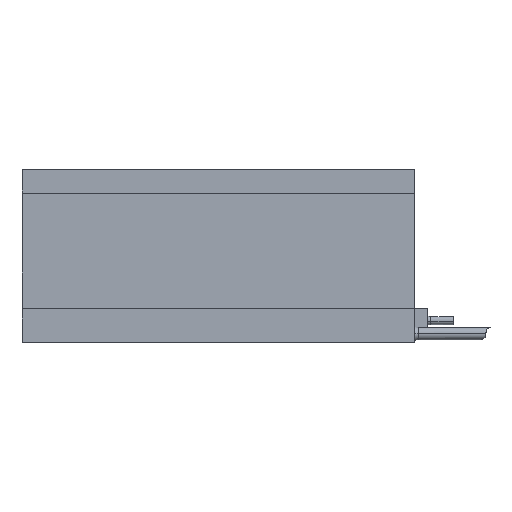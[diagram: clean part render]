
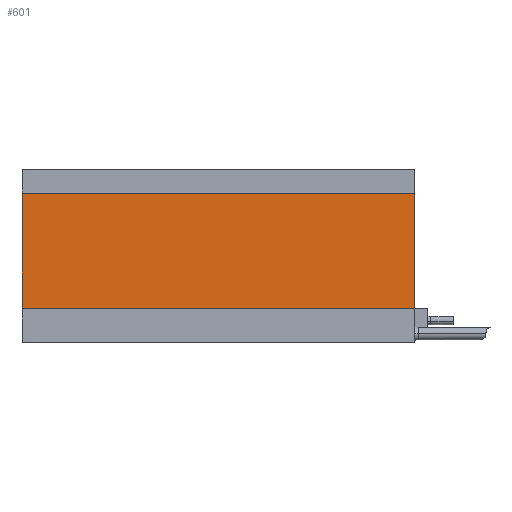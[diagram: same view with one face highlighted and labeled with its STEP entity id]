
A CAD part, top view. The second image highlights one B-rep face of the part: STEP entity #601.
In plain terms, the highlighted planar face has unit normal (0, 0, 1).
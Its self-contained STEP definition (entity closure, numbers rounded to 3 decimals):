
#506 = AXIS2_PLACEMENT_3D ( 'NONE', #1059, #4840, #2246 ) ;
#601 = ADVANCED_FACE ( 'NONE', ( #1141 ), #6640, .F. ) ;
#708 = CARTESIAN_POINT ( 'NONE',  ( 96.903, 119.703, 43.079 ) ) ;
#795 = CARTESIAN_POINT ( 'NONE',  ( -84.097, 66.803, 43.079 ) ) ;
#876 = LINE ( 'NONE', #6500, #7754 ) ;
#918 = DIRECTION ( 'NONE',  ( 0., -1., 0. ) ) ;
#1059 = CARTESIAN_POINT ( 'NONE',  ( -84.097, 66.803, 43.079 ) ) ;
#1129 = VERTEX_POINT ( 'NONE', #708 ) ;
#1141 = FACE_OUTER_BOUND ( 'NONE', #6634, .T. ) ;
#1447 = LINE ( 'NONE', #6326, #6321 ) ;
#1715 = ORIENTED_EDGE ( 'NONE', *, *, #3531, .F. ) ;
#2246 = DIRECTION ( 'NONE',  ( 0., 1., 0. ) ) ;
#2800 = ORIENTED_EDGE ( 'NONE', *, *, #4782, .F. ) ;
#3114 = VERTEX_POINT ( 'NONE', #5291 ) ;
#3531 = EDGE_CURVE ( 'NONE', #3114, #1129, #1447, .T. ) ;
#3928 = LINE ( 'NONE', #795, #8127 ) ;
#4321 = VERTEX_POINT ( 'NONE', #4609 ) ;
#4609 = CARTESIAN_POINT ( 'NONE',  ( 96.903, 66.803, 43.079 ) ) ;
#4782 = EDGE_CURVE ( 'NONE', #1129, #4321, #4839, .T. ) ;
#4839 = LINE ( 'NONE', #6059, #7918 ) ;
#4840 = DIRECTION ( 'NONE',  ( 0., 0., -1. ) ) ;
#4953 = ORIENTED_EDGE ( 'NONE', *, *, #7114, .T. ) ;
#5151 = CARTESIAN_POINT ( 'NONE',  ( -84.097, 66.803, 43.079 ) ) ;
#5182 = DIRECTION ( 'NONE',  ( 1., 0., 0. ) ) ;
#5291 = CARTESIAN_POINT ( 'NONE',  ( -84.097, 119.703, 43.079 ) ) ;
#6009 = ORIENTED_EDGE ( 'NONE', *, *, #7951, .T. ) ;
#6059 = CARTESIAN_POINT ( 'NONE',  ( 96.903, 66.803, 43.079 ) ) ;
#6098 = DIRECTION ( 'NONE',  ( 0., -1., 0. ) ) ;
#6321 = VECTOR ( 'NONE', #5182, 1000. ) ;
#6326 = CARTESIAN_POINT ( 'NONE',  ( -84.097, 119.703, 43.079 ) ) ;
#6331 = VERTEX_POINT ( 'NONE', #5151 ) ;
#6500 = CARTESIAN_POINT ( 'NONE',  ( -84.097, 66.803, 43.079 ) ) ;
#6634 = EDGE_LOOP ( 'NONE', ( #2800, #1715, #6009, #4953 ) ) ;
#6640 = PLANE ( 'NONE',  #506 ) ;
#7114 = EDGE_CURVE ( 'NONE', #6331, #4321, #3928, .T. ) ;
#7754 = VECTOR ( 'NONE', #918, 1000. ) ;
#7918 = VECTOR ( 'NONE', #6098, 1000. ) ;
#7951 = EDGE_CURVE ( 'NONE', #3114, #6331, #876, .T. ) ;
#8127 = VECTOR ( 'NONE', #8209, 1000. ) ;
#8209 = DIRECTION ( 'NONE',  ( 1., 0., 0. ) ) ;
